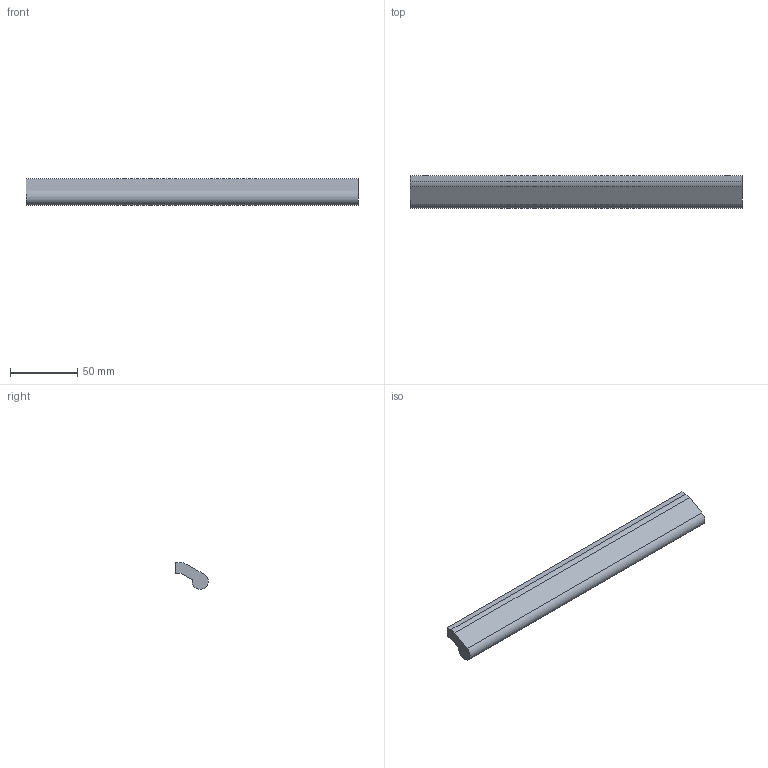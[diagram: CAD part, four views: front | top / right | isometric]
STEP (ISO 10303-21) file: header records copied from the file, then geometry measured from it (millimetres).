
FILE_DESCRIPTION( ( '' ), '1' );
FILE_NAME( 'C:/Documents and Settings/Nikhil/Desktop/Nik/Done/115099.stp', '2013-10-23T08:43:37', ( '' ), ( '' ), ' ', ' ', ' ' );
FILE_SCHEMA( ( 'automotive_design' ) );
Length unit declared in the file: millimetre
Products named in the file (1): 1
Bounding box: 246 x 24 x 19.77 mm (x, y, z)
Volume: 59347.8 mm3; surface area: 18039 mm2
Topology: 1 solids, 1 shells, 18 faces, 42 edges, 28 vertices
Faces by surface type: cylinder 9, plane 9
Entity records: 1042 total; most frequent: DIRECTION 98, STYLED_ITEM 89, PRESENTATION_STYLE_ASSIGNMENT 89, CARTESIAN_POINT 89, COLOUR_RGB 89, ORIENTED_EDGE 84, EDGE_CURVE 42, CURVE_STYLE 42
